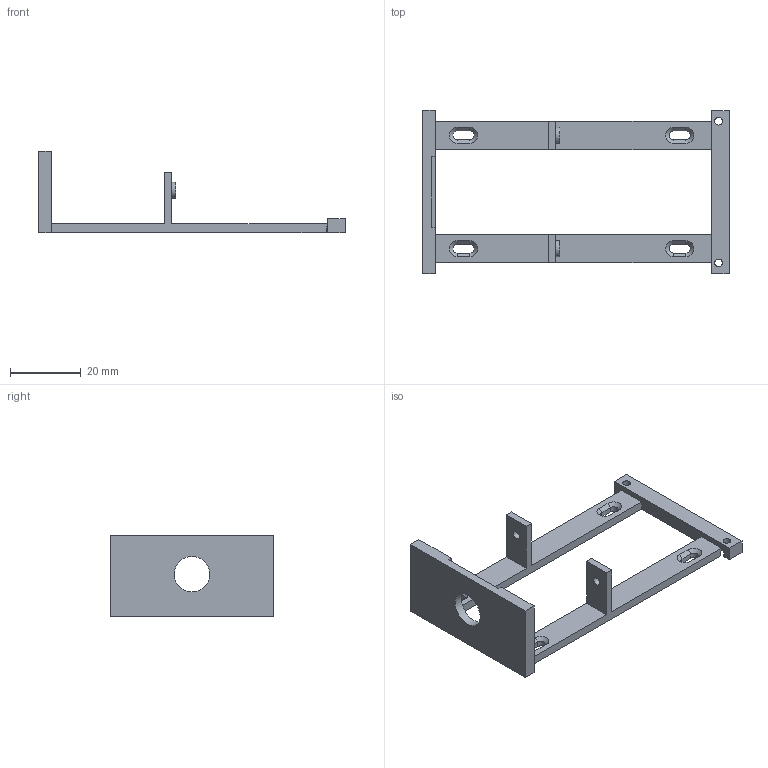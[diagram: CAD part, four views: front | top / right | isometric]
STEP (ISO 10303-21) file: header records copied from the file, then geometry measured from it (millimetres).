
FILE_DESCRIPTION(('Open CASCADE Model'),'2;1');
FILE_NAME('Open CASCADE Shape Model','2026-09-09T10:24:07',('Author'),( 'Open CASCADE'),'Open CASCADE STEP processor 7.8','Open CASCADE 7.8' ,'Unknown');
FILE_SCHEMA(('AUTOMOTIVE_DESIGN { 1 0 10303 214 1 1 1 1 }'));
Length unit declared in the file: millimetre
Products named in the file (1): Open CASCADE STEP translator 7.8 1
Bounding box: 86.44 x 46 x 23 mm (x, y, z)
Volume: 7357.2 mm3; surface area: 7368.4 mm2
Topology: 1 solids, 1 shells, 92 faces, 239 edges, 154 vertices
Faces by surface type: plane 65, cylinder 19, cone 8
Full cylindrical faces by diameter (mm): 2.04 x2, 2.2 x2, 2.3 x2, 2.4 x2, 4.6 x2, 10 x1
Entity records: 5858 total; most frequent: CARTESIAN_POINT 1224, DIRECTION 789, LINE 493, VECTOR 493, ORIENTED_EDGE 478, PCURVE 478, DEFINITIONAL_REPRESENTATION 478, EDGE_CURVE 239
